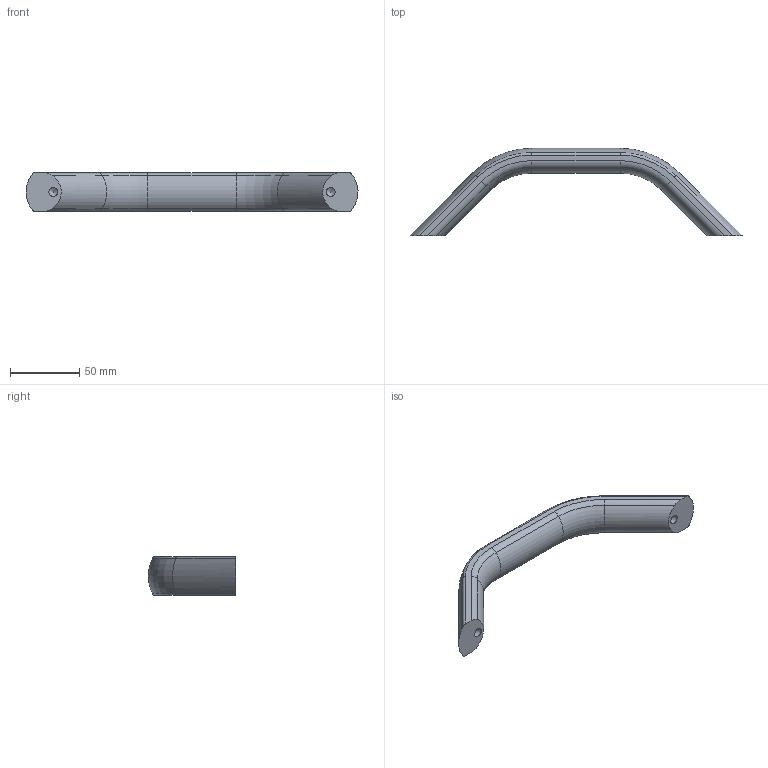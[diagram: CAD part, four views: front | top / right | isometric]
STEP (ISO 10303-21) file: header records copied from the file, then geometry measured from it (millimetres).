
FILE_DESCRIPTION( ( 'STEP AP203' ), '1' );
FILE_NAME( 'C:/Temp/Ganter_Step_05_03_2020/data/1_2/gn_428/gn_428_a/Cabinet U-handle GN 428-AL-28-200-A-SW.stp', '2020-03-05T10:11:27', ( 'License CC BY-ND 4.0' ), ( 'CADENAS' ), ' ', 'PARTsolutions', ' ' );
FILE_SCHEMA( ( 'CONFIG_CONTROL_DESIGN' ) );
Length unit declared in the file: millimetre
Products named in the file (1): _Cabinet U-handle GN 428-AL-28-200-A-SW
Bounding box: 239.43 x 63 x 28 mm (x, y, z)
Volume: 104275.5 mm3; surface area: 21093 mm2
Topology: 1 solids, 1 shells, 38 faces, 90 edges, 54 vertices
Faces by surface type: cylinder 20, torus 12, plane 4, cone 2
Full cylindrical faces by diameter (mm): 6.647 x2
Entity records: 1120 total; most frequent: DIRECTION 218, CARTESIAN_POINT 177, ORIENTED_EDGE 168, AXIS2_PLACEMENT_3D 95, EDGE_CURVE 84, VERTEX_POINT 54, CIRCLE 44, EDGE_LOOP 42
